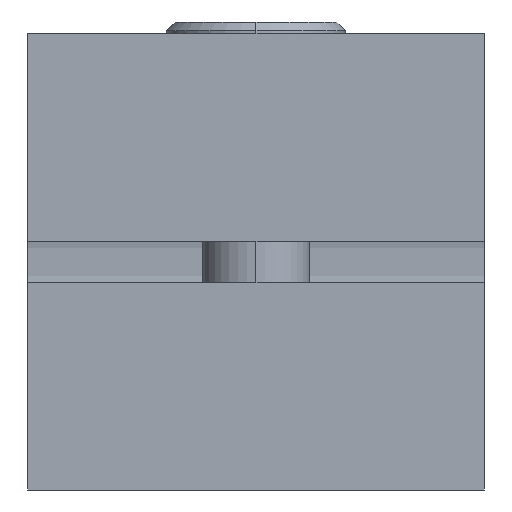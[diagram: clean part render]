
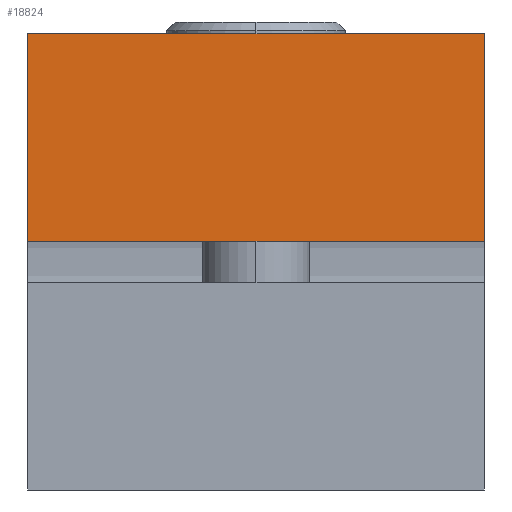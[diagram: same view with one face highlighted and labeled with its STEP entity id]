
A CAD part, left-side view. The second image highlights one B-rep face of the part: STEP entity #18824.
In plain terms, the highlighted planar face has unit normal (-1, 0, 0).
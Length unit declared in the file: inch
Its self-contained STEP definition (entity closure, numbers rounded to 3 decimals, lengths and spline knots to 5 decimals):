
#2806 = AXIS2_PLACEMENT_3D ( 'NONE', #6365, #6363, #6362 ) ;
#6199 = CARTESIAN_POINT ( 'NONE',  ( -2.0625, 0., 0.045 ) ) ;
#6294 = CARTESIAN_POINT ( 'NONE',  ( -2.0625, 1., 0.5 ) ) ;
#6362 = DIRECTION ( 'NONE',  ( 0., 0., -1. ) ) ;
#6363 = DIRECTION ( 'NONE',  ( 1., 0., 0. ) ) ;
#6365 = CARTESIAN_POINT ( 'NONE',  ( -2.0625, 1., 0.5 ) ) ;
#6366 = PLANE ( 'NONE',  #2806 ) ;
#6374 = CARTESIAN_POINT ( 'NONE',  ( -2.0625, 1., 0.045 ) ) ;
#8122 = DIRECTION ( 'NONE',  ( 0., 0., 1. ) ) ;
#8135 = CARTESIAN_POINT ( 'NONE',  ( -2.0625, 0., 0.5 ) ) ;
#8157 = DIRECTION ( 'NONE',  ( 0., 1., 0. ) ) ;
#8201 = CARTESIAN_POINT ( 'NONE',  ( -2.0625, -0.00004, 0.045 ) ) ;
#8258 = DIRECTION ( 'NONE',  ( 0., 0., 1. ) ) ;
#8270 = CARTESIAN_POINT ( 'NONE',  ( -2.0625, 1., 0.5 ) ) ;
#11479 = EDGE_LOOP ( 'NONE', ( #23319, #23320, #23321, #23322 ) ) ;
#14905 = DIRECTION ( 'NONE',  ( 0., -1., 0. ) ) ;
#14906 = CARTESIAN_POINT ( 'NONE',  ( -2.0625, 1., 0.5 ) ) ;
#15119 = CARTESIAN_POINT ( 'NONE',  ( -2.0625, 0., 0.5 ) ) ;
#17863 = VERTEX_POINT ( 'NONE', #15119 ) ;
#18131 = VERTEX_POINT ( 'NONE', #6374 ) ;
#18150 = VERTEX_POINT ( 'NONE', #6294 ) ;
#18518 = FACE_OUTER_BOUND ( 'NONE', #11479, .T. ) ;
#18824 = ADVANCED_FACE ( 'NONE', ( #18518 ), #6366, .F. ) ;
#19591 = VERTEX_POINT ( 'NONE', #6199 ) ;
#20316 = EDGE_CURVE ( 'NONE', #18150, #17863, #21722, .T. ) ;
#20906 = EDGE_CURVE ( 'NONE', #18131, #18150, #22144, .T. ) ;
#20907 = EDGE_CURVE ( 'NONE', #19591, #18131, #22146, .T. ) ;
#20908 = EDGE_CURVE ( 'NONE', #19591, #17863, #22148, .T. ) ;
#21722 = LINE ( 'NONE', #14906, #21723 ) ;
#21723 = VECTOR ( 'NONE', #14905, 39.37008 ) ;
#22144 = LINE ( 'NONE', #8270, #22145 ) ;
#22145 = VECTOR ( 'NONE', #8258, 39.37008 ) ;
#22146 = LINE ( 'NONE', #8201, #22147 ) ;
#22147 = VECTOR ( 'NONE', #8157, 39.37008 ) ;
#22148 = LINE ( 'NONE', #8135, #22149 ) ;
#22149 = VECTOR ( 'NONE', #8122, 39.37008 ) ;
#23319 = ORIENTED_EDGE ( 'NONE', *, *, #20906, .F. ) ;
#23320 = ORIENTED_EDGE ( 'NONE', *, *, #20907, .F. ) ;
#23321 = ORIENTED_EDGE ( 'NONE', *, *, #20908, .T. ) ;
#23322 = ORIENTED_EDGE ( 'NONE', *, *, #20316, .F. ) ;
